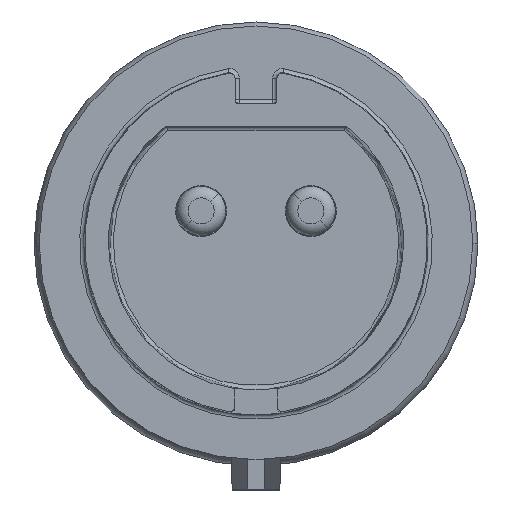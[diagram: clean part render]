
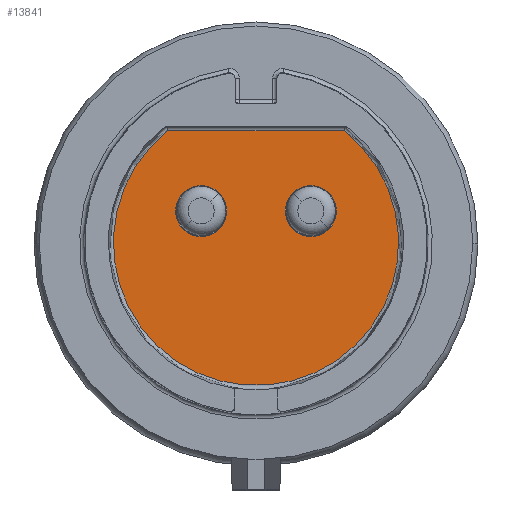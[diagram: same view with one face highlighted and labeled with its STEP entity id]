
A CAD part, top view. The second image highlights one B-rep face of the part: STEP entity #13841.
In plain terms, the highlighted planar face has unit normal (0, 0, 1).
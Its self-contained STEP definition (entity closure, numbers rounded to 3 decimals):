
#1719=DIRECTION('',(1.,0.,0.));
#1720=VECTOR('',#1719,21.427);
#1721=CARTESIAN_POINT('',(-10.713,13.65,23.5));
#1722=LINE('1026',#1721,#1720);
#1723=CARTESIAN_POINT('',(0.,0.,23.5));
#1724=DIRECTION('',(0.,0.,1.));
#1725=DIRECTION('',(-0.617,0.787,0.));
#1726=AXIS2_PLACEMENT_3D('',#1723,#1724,#1725);
#1728=CARTESIAN_POINT('',(6.668,3.85,23.5));
#1729=DIRECTION('',(0.,0.,1.));
#1730=DIRECTION('',(-1.,0.,0.));
#1731=AXIS2_PLACEMENT_3D('',#1728,#1729,#1730);
#1733=CARTESIAN_POINT('',(6.668,3.85,23.5));
#1734=DIRECTION('',(0.,0.,1.));
#1735=DIRECTION('',(1.,0.,0.));
#1736=AXIS2_PLACEMENT_3D('',#1733,#1734,#1735);
#1738=CARTESIAN_POINT('',(-6.668,3.85,23.5));
#1739=DIRECTION('',(0.,0.,1.));
#1740=DIRECTION('',(-1.,0.,0.));
#1741=AXIS2_PLACEMENT_3D('',#1738,#1739,#1740);
#1743=CARTESIAN_POINT('',(-6.668,3.85,23.5));
#1744=DIRECTION('',(0.,0.,1.));
#1745=DIRECTION('',(1.,0.,0.));
#1746=AXIS2_PLACEMENT_3D('',#1743,#1744,#1745);
#10301=CARTESIAN_POINT('',(3.568,3.85,23.5));
#10302=CARTESIAN_POINT('',(9.768,3.85,23.5));
#10303=VERTEX_POINT('',#10301);
#10304=VERTEX_POINT('',#10302);
#10305=CARTESIAN_POINT('',(-9.768,3.85,23.5));
#10306=CARTESIAN_POINT('',(-3.568,3.85,23.5));
#10307=VERTEX_POINT('',#10305);
#10308=VERTEX_POINT('',#10306);
#10309=CARTESIAN_POINT('',(-10.713,13.65,23.5));
#10310=CARTESIAN_POINT('',(10.713,13.65,23.5));
#10311=VERTEX_POINT('',#10309);
#10312=VERTEX_POINT('',#10310);
#13820=CARTESIAN_POINT('',(0.,0.,23.5));
#13821=DIRECTION('',(0.,0.,-1.));
#13822=DIRECTION('',(0.,1.,0.));
#13823=AXIS2_PLACEMENT_3D('',#13820,#13821,#13822);
#13824=PLANE('398',#13823);
#13825=ORIENTED_EDGE('1026',*,*,#13799,.T.);
#13826=ORIENTED_EDGE('1029',*,*,#13775,.F.);
#13827=EDGE_LOOP('398',(#13825,#13826));
#13828=FACE_OUTER_BOUND('398',#13827,.F.);
#13830=ORIENTED_EDGE('1022',*,*,#13829,.T.);
#13832=ORIENTED_EDGE('1023',*,*,#13831,.T.);
#13833=EDGE_LOOP('398',(#13830,#13832));
#13834=FACE_BOUND('398',#13833,.F.);
#13836=ORIENTED_EDGE('1024',*,*,#13835,.T.);
#13838=ORIENTED_EDGE('1025',*,*,#13837,.T.);
#13839=EDGE_LOOP('398',(#13836,#13838));
#13840=FACE_BOUND('398',#13839,.F.);
#1727=CIRCLE('1029',#1726,17.352);
#1732=CIRCLE('1022',#1731,3.1);
#1737=CIRCLE('1023',#1736,3.1);
#1742=CIRCLE('1024',#1741,3.1);
#1747=CIRCLE('1025',#1746,3.1);
#13775=EDGE_CURVE('1029',#10311,#10312,#1727,.T.);
#13799=EDGE_CURVE('1026',#10311,#10312,#1722,.T.);
#13829=EDGE_CURVE('1022',#10303,#10304,#1732,.T.);
#13831=EDGE_CURVE('1023',#10304,#10303,#1737,.T.);
#13835=EDGE_CURVE('1024',#10307,#10308,#1742,.T.);
#13837=EDGE_CURVE('1025',#10308,#10307,#1747,.T.);
#13841=ADVANCED_FACE('398',(#13828,#13834,#13840),#13824,.F.);
